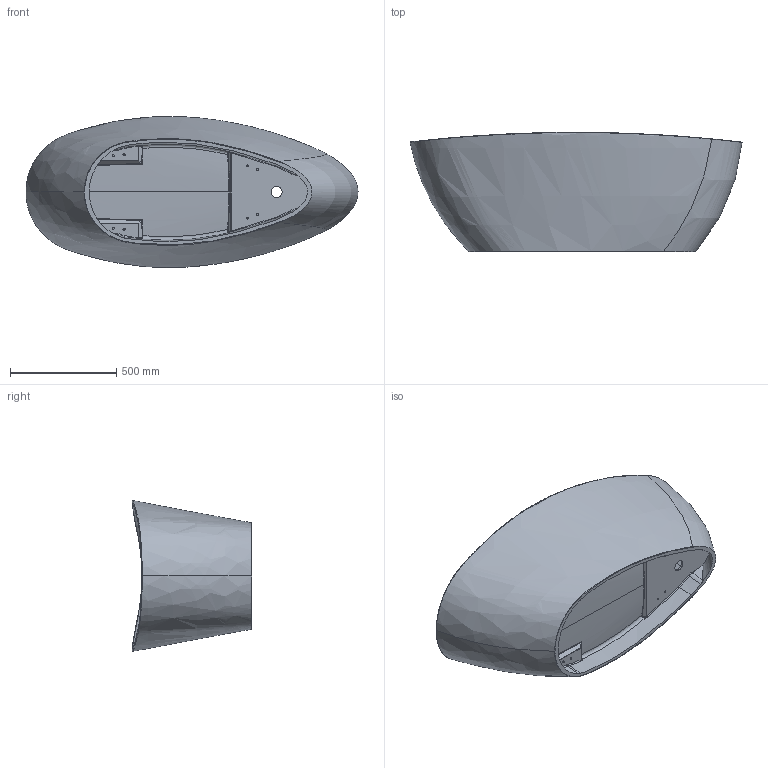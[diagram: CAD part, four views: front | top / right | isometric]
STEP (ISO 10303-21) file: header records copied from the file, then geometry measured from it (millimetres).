
FILE_DESCRIPTION(/* description */ (''),/* implementation_level */ '2;1');
FILE_NAME(/* name */ 'c:\worker\convert-fusion-r09\tmp\job-1\16\output\files\82feb3e9-28c3-4c8f-9ba3-857a8bc35da4\3a84615b-46d7-4d8f-8c44-778972b4dfb7.stp',/* time_stamp */ '2020-01-03T14:25:19+00:00',/* author */ (''),/* organization */ (''),/* preprocessor_version */ 'ST-DEVELOPER v18',/* originating_system */ 'Autodesk Translation Framework v8.12.0.6',/* authorisation */ '');
FILE_SCHEMA (('AUTOMOTIVE_DESIGN { 1 0 10303 214 3 1 1 }'));
Products named in the file (1): Barcelona 156
Bounding box: 1560.26 x 559.99 x 709.79 mm (x, y, z)
Volume: 39072695.3 mm3; surface area: 4504888.1 mm2
Topology: 1 solids, 1 shells, 134 faces, 608 edges, 477 vertices
Faces by surface type: bspline 90, cylinder 22, plane 19, sphere 2, cone 1
Full cylindrical faces by diameter (mm): 10 x8, 52 x1
Entity records: 48537 total; most frequent: CARTESIAN_POINT 44528, ORIENTED_EDGE 1200, EDGE_CURVE 600, DIRECTION 538, VERTEX_POINT 477, AXIS2_PLACEMENT_3D 247, EDGE_LOOP 145, FACE_OUTER_BOUND 134
